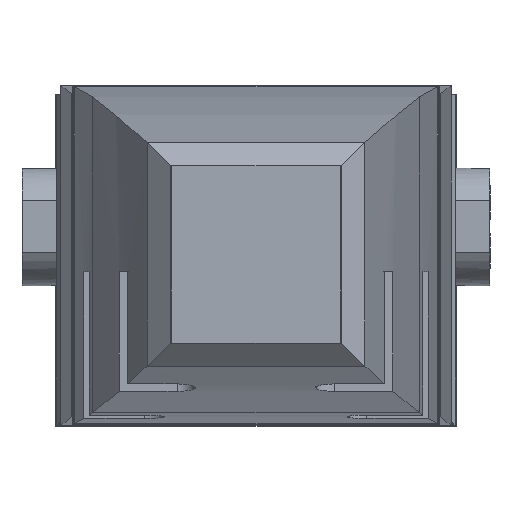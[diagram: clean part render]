
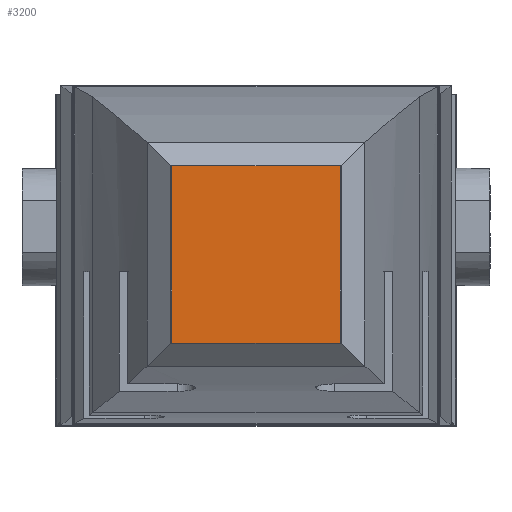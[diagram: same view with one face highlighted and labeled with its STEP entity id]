
A CAD part, top view. The second image highlights one B-rep face of the part: STEP entity #3200.
In plain terms, the highlighted planar face has unit normal (0, 0, 1).
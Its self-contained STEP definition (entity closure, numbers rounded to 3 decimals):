
#300=FACE_OUTER_BOUND('',#466,.T.);
#466=EDGE_LOOP('',(#2674,#2675,#2676,#2677));
#711=LINE('',#5041,#1076);
#767=LINE('',#5224,#1132);
#815=LINE('',#5349,#1180);
#816=LINE('',#5351,#1181);
#1076=VECTOR('',#3900,10.);
#1132=VECTOR('',#3998,10.);
#1180=VECTOR('',#4100,10.);
#1181=VECTOR('',#4103,10.);
#1431=VERTEX_POINT('',#5023);
#1432=VERTEX_POINT('',#5040);
#1481=VERTEX_POINT('',#5206);
#1482=VERTEX_POINT('',#5223);
#1807=EDGE_CURVE('',#1432,#1431,#711,.T.);
#1876=EDGE_CURVE('',#1482,#1481,#767,.T.);
#1929=EDGE_CURVE('',#1481,#1432,#815,.T.);
#1930=EDGE_CURVE('',#1482,#1431,#816,.T.);
#2674=ORIENTED_EDGE('',*,*,#1807,.T.);
#2675=ORIENTED_EDGE('',*,*,#1930,.F.);
#2676=ORIENTED_EDGE('',*,*,#1876,.T.);
#2677=ORIENTED_EDGE('',*,*,#1929,.T.);
#3046=PLANE('',#3423);
#3200=ADVANCED_FACE('',(#300),#3046,.T.);
#3423=AXIS2_PLACEMENT_3D('',#5350,#4101,#4102);
#3900=DIRECTION('',(-1.,0.,0.));
#3998=DIRECTION('',(1.,0.,0.));
#4100=DIRECTION('',(0.,1.,0.));
#4101=DIRECTION('center_axis',(0.,0.,1.));
#4102=DIRECTION('ref_axis',(1.,0.,0.));
#4103=DIRECTION('',(0.,1.,0.));
#5023=CARTESIAN_POINT('',(-25.803,18.259,271.383));
#5040=CARTESIAN_POINT('',(25.803,18.259,271.383));
#5041=CARTESIAN_POINT('',(-12.901,18.259,271.383));
#5206=CARTESIAN_POINT('',(25.803,-35.997,271.383));
#5223=CARTESIAN_POINT('',(-25.803,-35.997,271.383));
#5224=CARTESIAN_POINT('',(-12.901,-35.997,271.383));
#5349=CARTESIAN_POINT('',(25.803,0.,271.383));
#5350=CARTESIAN_POINT('Origin',(-25.803,0.,271.383));
#5351=CARTESIAN_POINT('',(-25.803,0.,271.383));
